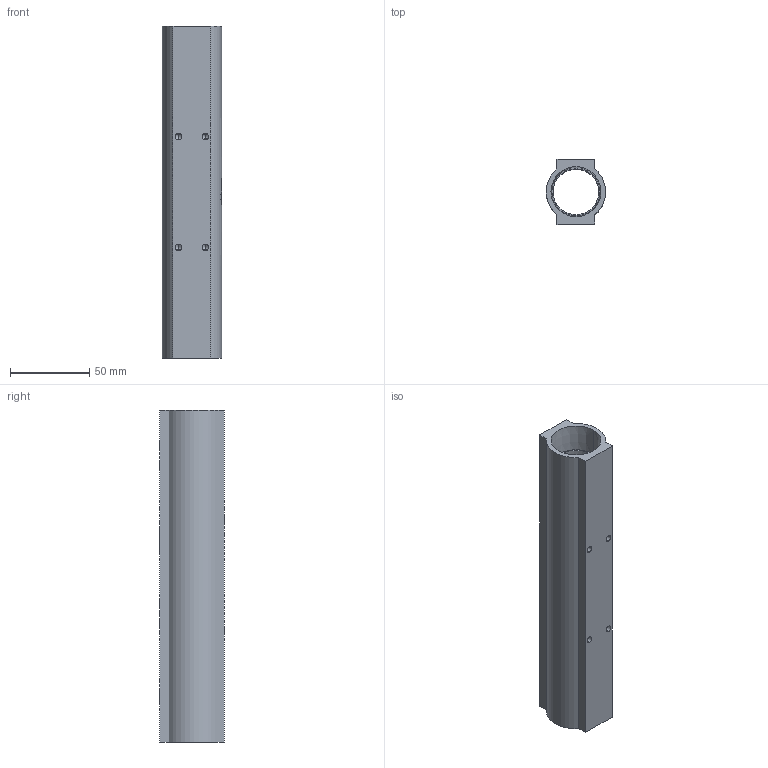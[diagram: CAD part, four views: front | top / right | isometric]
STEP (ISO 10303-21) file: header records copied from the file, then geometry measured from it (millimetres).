
FILE_DESCRIPTION (( 'STEP AP214' ), '1' );
FILE_NAME ('BWM4816R.STEP', '2022-03-15T04:41:02', ( '' ), ( '' ), 'SwSTEP 2.0', 'SolidWorks 2020', '' );
FILE_SCHEMA (( 'AUTOMOTIVE_DESIGN' ));
Length unit declared in the file: millimetre
Products named in the file (1): BWM4816R
Bounding box: 37.44 x 41 x 210 mm (x, y, z)
Volume: 112603.9 mm3; surface area: 49220.6 mm2
Topology: 1 solids, 1 shells, 211 faces, 562 edges, 368 vertices
Faces by surface type: plane 105, bspline 44, cylinder 42, cone 20
Entity records: 11310 total; most frequent: CARTESIAN_POINT 4634, ORIENTED_EDGE 1108, DIRECTION 760, EDGE_CURVE 554, VERTEX_POINT 368, VECTOR 284, LINE 284, EDGE_LOOP 244
